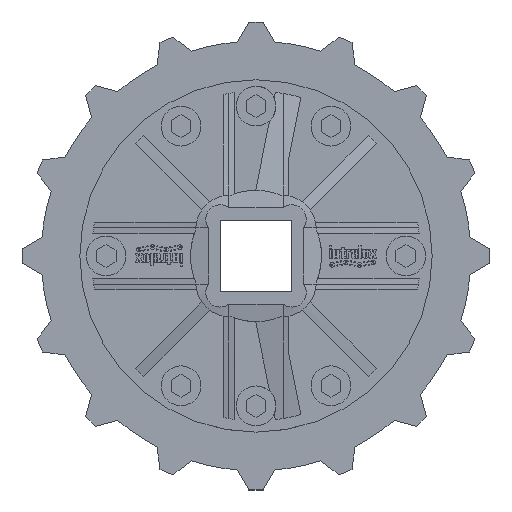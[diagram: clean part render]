
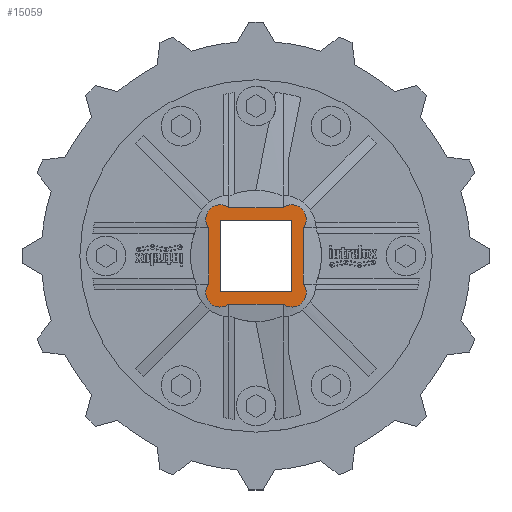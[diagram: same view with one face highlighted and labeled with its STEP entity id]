
A CAD part, top view. The second image highlights one B-rep face of the part: STEP entity #15059.
In plain terms, the highlighted planar face has unit normal (0, 0, 1) as drawn and (0, 1, 0) by its records, which use the part's own axes.
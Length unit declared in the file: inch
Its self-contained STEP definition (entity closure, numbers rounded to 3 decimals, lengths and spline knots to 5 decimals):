
#5723=CARTESIAN_POINT('',(0.8044,0.67,-0.78455));
#5724=DIRECTION('',(0.,1.,0.));
#5725=DIRECTION('',(0.813,0.,0.583));
#5726=AXIS2_PLACEMENT_3D('',#5723,#5724,#5725);
#5728=DIRECTION('',(0.,0.,-1.));
#5729=VECTOR('',#5728,1.196);
#5730=CARTESIAN_POINT('',(1.0644,0.67,0.598));
#5731=LINE('',#5730,#5729);
#5732=CARTESIAN_POINT('',(0.8044,0.67,0.78455));
#5733=DIRECTION('',(0.,1.,0.));
#5734=DIRECTION('',(-0.583,0.,0.813));
#5735=AXIS2_PLACEMENT_3D('',#5732,#5733,#5734);
#5737=DIRECTION('',(1.,0.,0.));
#5738=VECTOR('',#5737,1.2357);
#5739=CARTESIAN_POINT('',(-0.61785,0.67,1.04455));
#5740=LINE('',#5739,#5738);
#5741=CARTESIAN_POINT('',(-0.8044,0.67,0.78455));
#5742=DIRECTION('',(0.,1.,0.));
#5743=DIRECTION('',(-0.813,0.,-0.583));
#5744=AXIS2_PLACEMENT_3D('',#5741,#5742,#5743);
#5746=DIRECTION('',(0.,0.,1.));
#5747=VECTOR('',#5746,1.196);
#5748=CARTESIAN_POINT('',(-1.0644,0.67,-0.598));
#5749=LINE('',#5748,#5747);
#5750=CARTESIAN_POINT('',(-0.8044,0.67,-0.78455));
#5751=DIRECTION('',(0.,1.,0.));
#5752=DIRECTION('',(0.583,0.,-0.813));
#5753=AXIS2_PLACEMENT_3D('',#5750,#5751,#5752);
#5755=DIRECTION('',(-1.,0.,0.));
#5756=VECTOR('',#5755,1.2357);
#5757=CARTESIAN_POINT('',(0.61785,0.67,-1.04455));
#5758=LINE('',#5757,#5756);
#5759=DIRECTION('',(-1.,0.,0.));
#5760=VECTOR('',#5759,1.575);
#5761=CARTESIAN_POINT('',(0.7875,0.67,-0.7875));
#5762=LINE('',#5761,#5760);
#5763=DIRECTION('',(0.,0.,1.));
#5764=VECTOR('',#5763,1.575);
#5765=CARTESIAN_POINT('',(-0.7875,0.67,-0.7875));
#5766=LINE('',#5765,#5764);
#5767=DIRECTION('',(1.,0.,0.));
#5768=VECTOR('',#5767,1.575);
#5769=CARTESIAN_POINT('',(-0.7875,0.67,0.7875));
#5770=LINE('',#5769,#5768);
#5771=DIRECTION('',(0.,0.,-1.));
#5772=VECTOR('',#5771,1.575);
#5773=CARTESIAN_POINT('',(0.7875,0.67,0.7875));
#5774=LINE('',#5773,#5772);
#11645=CARTESIAN_POINT('',(1.0644,0.67,-0.598));
#11646=CARTESIAN_POINT('',(0.61785,0.67,-1.04455));
#11647=VERTEX_POINT('',#11645);
#11648=VERTEX_POINT('',#11646);
#11649=CARTESIAN_POINT('',(1.0644,0.67,0.598));
#11650=VERTEX_POINT('',#11649);
#11651=CARTESIAN_POINT('',(0.61785,0.67,1.04455));
#11652=VERTEX_POINT('',#11651);
#11653=CARTESIAN_POINT('',(-0.61785,0.67,1.04455));
#11654=VERTEX_POINT('',#11653);
#11655=CARTESIAN_POINT('',(-1.0644,0.67,0.598));
#11656=VERTEX_POINT('',#11655);
#11657=CARTESIAN_POINT('',(-1.0644,0.67,-0.598));
#11658=VERTEX_POINT('',#11657);
#11659=CARTESIAN_POINT('',(-0.61785,0.67,-1.04455));
#11660=VERTEX_POINT('',#11659);
#11796=CARTESIAN_POINT('',(0.7875,0.67,-0.7875));
#11797=VERTEX_POINT('',#11796);
#11798=CARTESIAN_POINT('',(-0.7875,0.67,-0.7875));
#11799=VERTEX_POINT('',#11798);
#11800=CARTESIAN_POINT('',(-0.7875,0.67,0.7875));
#11801=VERTEX_POINT('',#11800);
#11802=CARTESIAN_POINT('',(0.7875,0.67,0.7875));
#11803=VERTEX_POINT('',#11802);
#15034=CARTESIAN_POINT('',(0.,0.67,0.));
#15035=DIRECTION('',(0.,-1.,0.));
#15036=DIRECTION('',(1.,0.,0.));
#15037=AXIS2_PLACEMENT_3D('',#15034,#15035,#15036);
#15038=PLANE('',#15037);
#15039=ORIENTED_EDGE('',*,*,#13934,.F.);
#15040=ORIENTED_EDGE('',*,*,#14311,.F.);
#15041=ORIENTED_EDGE('',*,*,#14366,.F.);
#15042=ORIENTED_EDGE('',*,*,#14733,.F.);
#15043=ORIENTED_EDGE('',*,*,#14783,.F.);
#15044=ORIENTED_EDGE('',*,*,#13464,.F.);
#15045=ORIENTED_EDGE('',*,*,#13520,.F.);
#15046=ORIENTED_EDGE('',*,*,#13883,.F.);
#15047=EDGE_LOOP('',(#15039,#15040,#15041,#15042,#15043,#15044,#15045,#15046));
#15048=FACE_OUTER_BOUND('',#15047,.F.);
#15050=ORIENTED_EDGE('',*,*,#15049,.T.);
#15052=ORIENTED_EDGE('',*,*,#15051,.T.);
#15054=ORIENTED_EDGE('',*,*,#15053,.T.);
#15056=ORIENTED_EDGE('',*,*,#15055,.T.);
#15057=EDGE_LOOP('',(#15050,#15052,#15054,#15056));
#15058=FACE_BOUND('',#15057,.F.);
#15059=ADVANCED_FACE('',(#15048,#15058),#15038,.F.);
#5727=CIRCLE('',#5726,0.32);
#5736=CIRCLE('',#5735,0.32);
#5745=CIRCLE('',#5744,0.32);
#5754=CIRCLE('',#5753,0.32);
#13464=EDGE_CURVE('',#11658,#11656,#5749,.T.);
#13520=EDGE_CURVE('',#11660,#11658,#5754,.T.);
#13883=EDGE_CURVE('',#11648,#11660,#5758,.T.);
#13934=EDGE_CURVE('',#11647,#11648,#5727,.T.);
#14311=EDGE_CURVE('',#11650,#11647,#5731,.T.);
#14366=EDGE_CURVE('',#11652,#11650,#5736,.T.);
#14733=EDGE_CURVE('',#11654,#11652,#5740,.T.);
#14783=EDGE_CURVE('',#11656,#11654,#5745,.T.);
#15049=EDGE_CURVE('',#11797,#11799,#5762,.T.);
#15051=EDGE_CURVE('',#11799,#11801,#5766,.T.);
#15053=EDGE_CURVE('',#11801,#11803,#5770,.T.);
#15055=EDGE_CURVE('',#11803,#11797,#5774,.T.);
